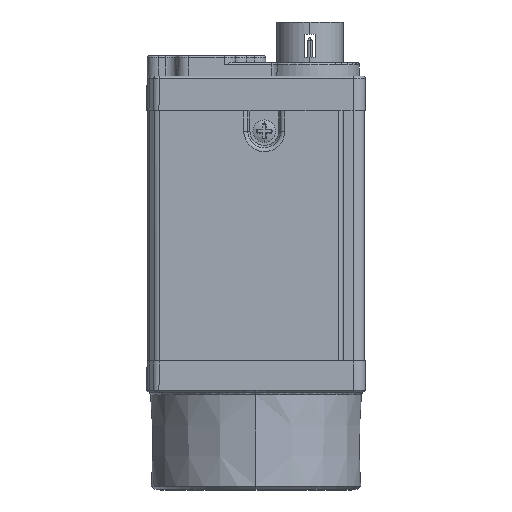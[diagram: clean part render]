
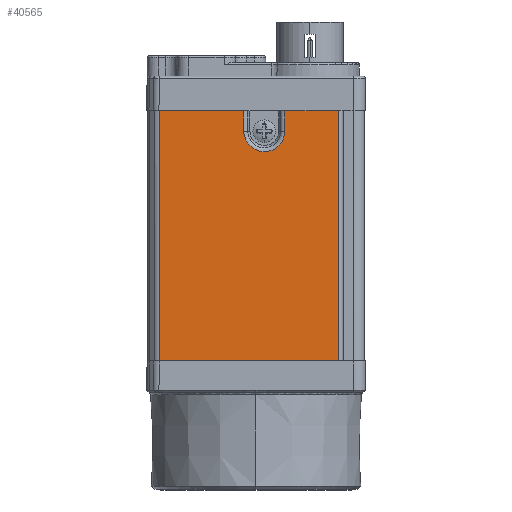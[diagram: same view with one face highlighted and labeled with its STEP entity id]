
A CAD part, left-side view. The second image highlights one B-rep face of the part: STEP entity #40565.
In plain terms, the highlighted planar face has unit normal (-1, 0, 0).
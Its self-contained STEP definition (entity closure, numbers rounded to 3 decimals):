
#6217=CARTESIAN_POINT('',(-14.5,12.786,37.4));
#6243=DIRECTION('',(0.,0.,-1.));
#6244=VECTOR('',#6243,33.2);
#6245=CARTESIAN_POINT('',(-14.5,12.786,37.4));
#6246=LINE('',#6245,#6244);
#6247=DIRECTION('',(0.,-1.,0.));
#6248=VECTOR('',#6247,7.142);
#6249=CARTESIAN_POINT('',(-14.5,-3.808,37.4));
#6250=LINE('',#6249,#6248);
#6251=DIRECTION('',(0.,1.,0.));
#6252=VECTOR('',#6251,23.736);
#6253=CARTESIAN_POINT('',(-14.5,-10.95,4.2));
#6254=LINE('',#6253,#6252);
#6255=DIRECTION('',(0.,-1.,0.));
#6256=VECTOR('',#6255,11.177);
#6257=CARTESIAN_POINT('',(-14.5,12.786,37.4));
#6258=LINE('',#6257,#6256);
#6259=CARTESIAN_POINT('',(-14.5,-1.1,34.7));
#6260=DIRECTION('',(-1.,0.,0.));
#6261=DIRECTION('',(0.,1.,0.));
#6262=AXIS2_PLACEMENT_3D('',#6259,#6260,#6261);
#6264=CARTESIAN_POINT('',(-14.5,-1.1,34.7));
#6265=DIRECTION('',(-1.,0.,0.));
#6266=DIRECTION('',(0.,0.995,-0.102));
#6267=AXIS2_PLACEMENT_3D('',#6264,#6265,#6266);
#6269=DIRECTION('',(0.,0.,1.));
#6270=VECTOR('',#6269,33.2);
#6271=CARTESIAN_POINT('',(-14.5,-10.95,4.2));
#6272=LINE('',#6271,#6270);
#9674=DIRECTION('',(0.,0.,1.));
#9675=VECTOR('',#9674,2.7);
#9676=CARTESIAN_POINT('',(-14.5,1.608,34.7));
#9677=LINE('',#9676,#9675);
#9700=DIRECTION('',(0.,0.,-1.));
#9701=VECTOR('',#9700,2.7);
#9702=CARTESIAN_POINT('',(-14.5,-3.808,37.4));
#9703=LINE('',#9702,#9701);
#24426=CARTESIAN_POINT('',(-14.5,-3.808,37.4));
#24428=VERTEX_POINT('',#24426);
#24436=CARTESIAN_POINT('',(-14.5,1.608,37.4));
#24437=VERTEX_POINT('',#24436);
#24439=CARTESIAN_POINT('',(-14.5,-10.95,37.4));
#24441=VERTEX_POINT('',#24439);
#25173=CARTESIAN_POINT('',(-14.5,12.786,4.2));
#25174=VERTEX_POINT('',#25173);
#25175=CARTESIAN_POINT('',(-14.5,-10.95,4.2));
#25176=VERTEX_POINT('',#25175);
#25177=VERTEX_POINT('',#6217);
#29528=CARTESIAN_POINT('',(-14.5,1.608,34.7));
#29529=VERTEX_POINT('',#29528);
#29530=CARTESIAN_POINT('',(-14.5,1.594,34.423));
#29531=VERTEX_POINT('',#29530);
#29532=CARTESIAN_POINT('',(-14.5,-3.808,34.7));
#29533=VERTEX_POINT('',#29532);
#40543=CARTESIAN_POINT('',(-14.5,0.918,20.8));
#40544=DIRECTION('',(1.,0.,0.));
#40545=DIRECTION('',(0.,1.,0.));
#40546=AXIS2_PLACEMENT_3D('',#40543,#40544,#40545);
#40547=PLANE('',#40546);
#40548=ORIENTED_EDGE('',*,*,#40484,.T.);
#40550=ORIENTED_EDGE('',*,*,#40549,.F.);
#40552=ORIENTED_EDGE('',*,*,#40551,.T.);
#40553=ORIENTED_EDGE('',*,*,#40510,.F.);
#40554=ORIENTED_EDGE('',*,*,#40488,.T.);
#40556=ORIENTED_EDGE('',*,*,#40555,.F.);
#40558=ORIENTED_EDGE('',*,*,#40557,.T.);
#40560=ORIENTED_EDGE('',*,*,#40559,.T.);
#40562=ORIENTED_EDGE('',*,*,#40561,.F.);
#40563=EDGE_LOOP('',(#40548,#40550,#40552,#40553,#40554,#40556,#40558,#40560,
#40562));
#40564=FACE_OUTER_BOUND('',#40563,.F.);
#40565=ADVANCED_FACE('',(#40564),#40547,.F.);
#6263=CIRCLE('',#6262,2.708);
#6268=CIRCLE('',#6267,2.708);
#40484=EDGE_CURVE('',#24428,#24441,#6250,.T.);
#40488=EDGE_CURVE('',#25177,#24437,#6258,.T.);
#40510=EDGE_CURVE('',#25177,#25174,#6246,.T.);
#40549=EDGE_CURVE('',#25176,#24441,#6272,.T.);
#40551=EDGE_CURVE('',#25176,#25174,#6254,.T.);
#40555=EDGE_CURVE('',#29529,#24437,#9677,.T.);
#40557=EDGE_CURVE('',#29529,#29531,#6263,.T.);
#40559=EDGE_CURVE('',#29531,#29533,#6268,.T.);
#40561=EDGE_CURVE('',#24428,#29533,#9703,.T.);
